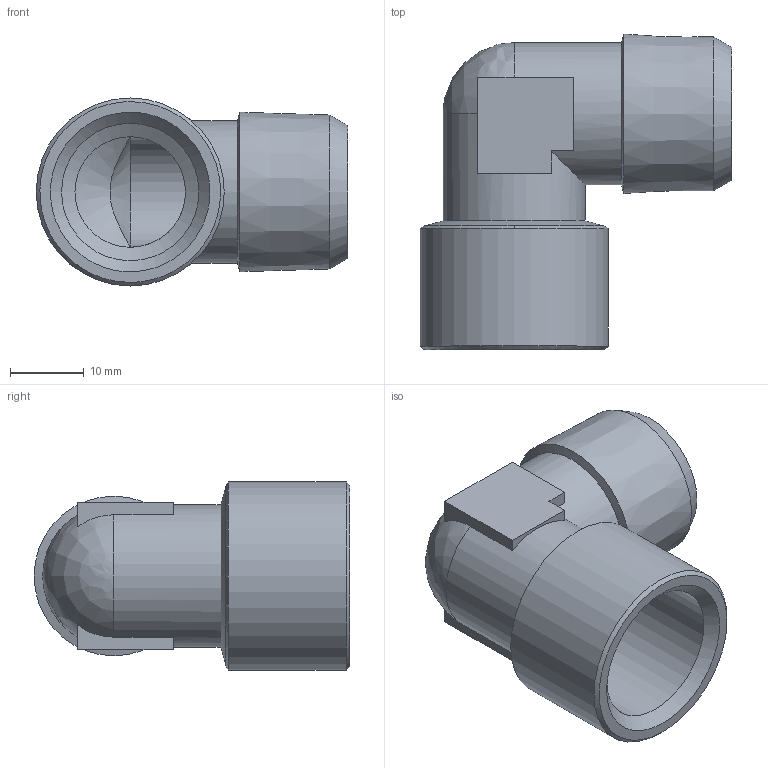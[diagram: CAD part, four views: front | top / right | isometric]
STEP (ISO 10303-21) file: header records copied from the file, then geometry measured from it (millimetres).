
FILE_DESCRIPTION (( 'STEP AP214' ), '1' );
FILE_NAME ('0502000010500A.STEP', '2013-08-07T14:59:08', ( 'ST01' ), ( '' ), 'SwSTEP 2.0', 'SolidWorks 2012', '' );
FILE_SCHEMA (( 'AUTOMOTIVE_DESIGN' ));
Length unit declared in the file: millimetre
Products named in the file (1): 0502000010500A
Bounding box: 42.25 x 42.82 x 25.5 mm (x, y, z)
Volume: 10431.6 mm3; surface area: 7715.7 mm2
Topology: 1 solids, 1 shells, 35 faces, 90 edges, 56 vertices
Faces by surface type: plane 16, cone 10, cylinder 6, bspline 3
Full cylindrical faces by diameter (mm): 15 x2, 18.631 x1, 19.3 x2, 25.5 x1
Entity records: 1481 total; most frequent: CARTESIAN_POINT 707, ORIENTED_EDGE 146, DIRECTION 138, EDGE_CURVE 73, VERTEX_POINT 54, AXIS2_PLACEMENT_3D 53, EDGE_LOOP 51, FACE_OUTER_BOUND 41
